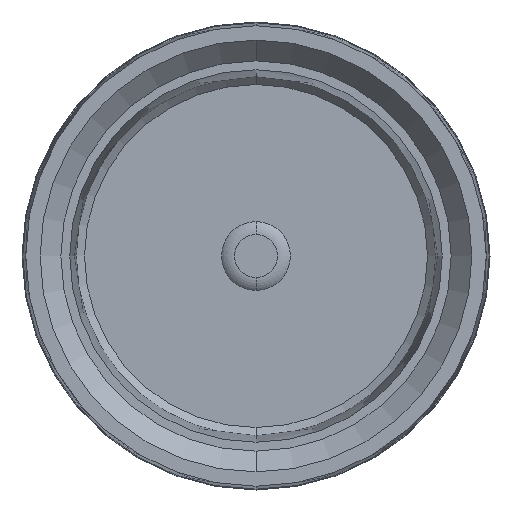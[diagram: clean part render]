
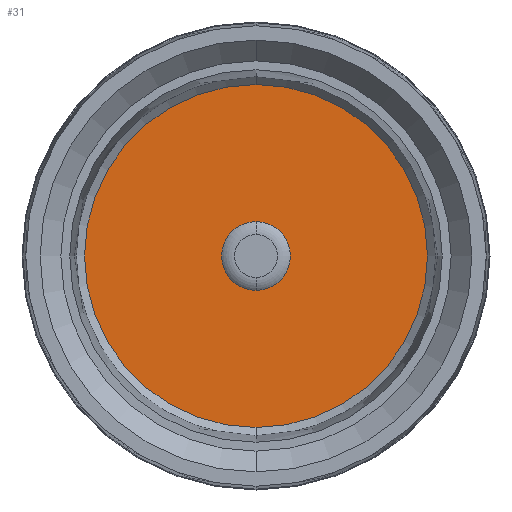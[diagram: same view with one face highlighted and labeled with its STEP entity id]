
A CAD part, front view. The second image highlights one B-rep face of the part: STEP entity #31.
In plain terms, the highlighted planar face has unit normal (0, -1, 0).
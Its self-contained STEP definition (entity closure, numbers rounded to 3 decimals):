
#21 = CIRCLE ( 'NONE', #486, 11.606 ) ;
#31 = ADVANCED_FACE ( 'NONE', ( #401, #246 ), #454, .F. ) ;
#85 = AXIS2_PLACEMENT_3D ( 'NONE', #650, #378, #315 ) ;
#111 = CARTESIAN_POINT ( 'NONE',  ( 0., 25.052, 0. ) ) ;
#122 = CIRCLE ( 'NONE', #380, 2.326 ) ;
#148 = EDGE_CURVE ( 'NONE', #637, #639, #21, .T. ) ;
#149 = DIRECTION ( 'NONE',  ( 0., 0., 1. ) ) ;
#183 = DIRECTION ( 'NONE',  ( 0., 1., 0. ) ) ;
#207 = AXIS2_PLACEMENT_3D ( 'NONE', #546, #810, #273 ) ;
#236 = EDGE_CURVE ( 'NONE', #855, #381, #701, .T. ) ;
#246 = FACE_OUTER_BOUND ( 'NONE', #642, .T. ) ;
#250 = ORIENTED_EDGE ( 'NONE', *, *, #559, .T. ) ;
#262 = DIRECTION ( 'NONE',  ( 0., 0., 1. ) ) ;
#273 = DIRECTION ( 'NONE',  ( 0., 0., 1. ) ) ;
#315 = DIRECTION ( 'NONE',  ( 0., 0., 1. ) ) ;
#333 = EDGE_CURVE ( 'NONE', #381, #855, #122, .T. ) ;
#378 = DIRECTION ( 'NONE',  ( 0., -1., 0. ) ) ;
#380 = AXIS2_PLACEMENT_3D ( 'NONE', #111, #183, #262 ) ;
#381 = VERTEX_POINT ( 'NONE', #504 ) ;
#401 = FACE_BOUND ( 'NONE', #450, .T. ) ;
#450 = EDGE_LOOP ( 'NONE', ( #614, #667 ) ) ;
#454 = PLANE ( 'NONE',  #531 ) ;
#465 = DIRECTION ( 'NONE',  ( 0., 1., 0. ) ) ;
#474 = CIRCLE ( 'NONE', #85, 11.606 ) ;
#486 = AXIS2_PLACEMENT_3D ( 'NONE', #574, #767, #149 ) ;
#504 = CARTESIAN_POINT ( 'NONE',  ( 0., 25.052, 2.326 ) ) ;
#525 = DIRECTION ( 'NONE',  ( 0., 0., 1. ) ) ;
#531 = AXIS2_PLACEMENT_3D ( 'NONE', #868, #465, #525 ) ;
#546 = CARTESIAN_POINT ( 'NONE',  ( 0., 25.052, 0. ) ) ;
#559 = EDGE_CURVE ( 'NONE', #639, #637, #474, .T. ) ;
#574 = CARTESIAN_POINT ( 'NONE',  ( 0., 25.052, 0. ) ) ;
#609 = ORIENTED_EDGE ( 'NONE', *, *, #148, .T. ) ;
#614 = ORIENTED_EDGE ( 'NONE', *, *, #236, .T. ) ;
#637 = VERTEX_POINT ( 'NONE', #655 ) ;
#639 = VERTEX_POINT ( 'NONE', #668 ) ;
#642 = EDGE_LOOP ( 'NONE', ( #250, #609 ) ) ;
#650 = CARTESIAN_POINT ( 'NONE',  ( 0., 25.052, 0. ) ) ;
#655 = CARTESIAN_POINT ( 'NONE',  ( 0., 25.052, 11.606 ) ) ;
#667 = ORIENTED_EDGE ( 'NONE', *, *, #333, .T. ) ;
#668 = CARTESIAN_POINT ( 'NONE',  ( 0., 25.052, -11.606 ) ) ;
#701 = CIRCLE ( 'NONE', #207, 2.326 ) ;
#747 = CARTESIAN_POINT ( 'NONE',  ( 0., 25.052, -2.326 ) ) ;
#767 = DIRECTION ( 'NONE',  ( 0., -1., 0. ) ) ;
#810 = DIRECTION ( 'NONE',  ( 0., 1., 0. ) ) ;
#855 = VERTEX_POINT ( 'NONE', #747 ) ;
#868 = CARTESIAN_POINT ( 'NONE',  ( 0., 25.052, 0. ) ) ;
